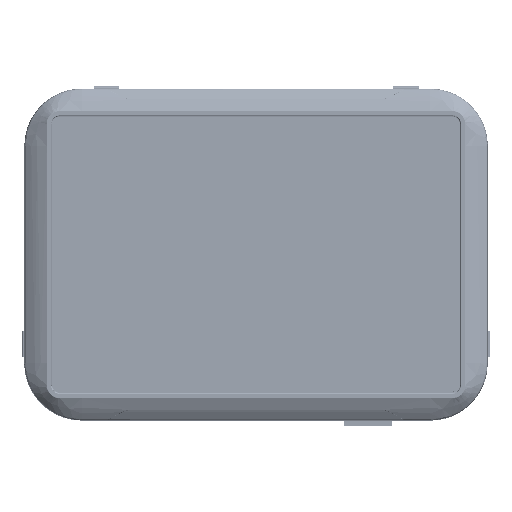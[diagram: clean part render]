
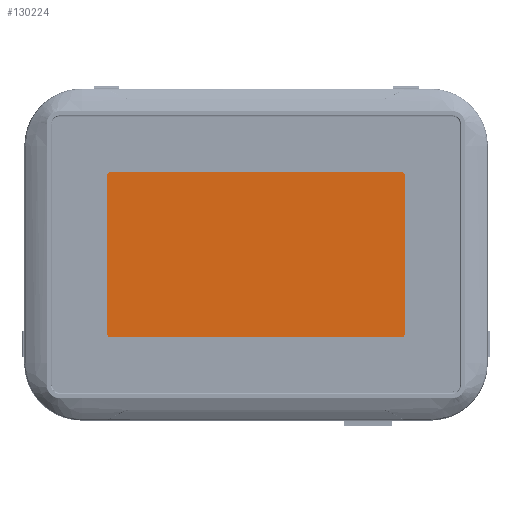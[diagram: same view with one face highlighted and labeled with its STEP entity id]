
A CAD part, top view. The second image highlights one B-rep face of the part: STEP entity #130224.
In plain terms, the highlighted planar face has unit normal (0, 0, 1).
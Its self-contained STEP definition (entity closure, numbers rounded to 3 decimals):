
#1723 = DIRECTION ( 'NONE',  ( -1., 0., 0. ) ) ;
#2961 = B_SPLINE_CURVE_WITH_KNOTS ( 'NONE', 3,
 ( #199640, #97426, #174773, #20949, #200762, #46853, #226615, #72725 ),
 .UNSPECIFIED., .F., .F.,
 ( 4, 2, 2, 4 ),
 ( 0., 0., 0.001, 0.002 ),
 .UNSPECIFIED. ) ;
#3267 = CARTESIAN_POINT ( 'NONE',  ( 46.525, 25.062, -0.2 ) ) ;
#6204 = CARTESIAN_POINT ( 'NONE',  ( 46.525, 24.93, -0.2 ) ) ;
#8180 = DIRECTION ( 'NONE',  ( 1., 0., 0. ) ) ;
#11655 = CARTESIAN_POINT ( 'NONE',  ( 45.657, -25.93, -0.2 ) ) ;
#19424 = VERTEX_POINT ( 'NONE', #78878 ) ;
#20949 = CARTESIAN_POINT ( 'NONE',  ( -46.029, 25.803, -0.2 ) ) ;
#21552 = CARTESIAN_POINT ( 'NONE',  ( -45.789, -25.93, -0.2 ) ) ;
#25445 = VERTEX_POINT ( 'NONE', #184289 ) ;
#33807 = LINE ( 'NONE', #146647, #299238 ) ;
#40861 = VECTOR ( 'NONE', #1723, 1000. ) ;
#46363 = CARTESIAN_POINT ( 'NONE',  ( -46.525, -24.93, -0.2 ) ) ;
#46853 = CARTESIAN_POINT ( 'NONE',  ( -46.416, 25.453, -0.2 ) ) ;
#58013 = DIRECTION ( 'NONE',  ( 0., -1., 0. ) ) ;
#63465 = CARTESIAN_POINT ( 'NONE',  ( 46.14, -25.729, -0.2 ) ) ;
#65794 = ORIENTED_EDGE ( 'NONE', *, *, #219955, .T. ) ;
#66437 = LINE ( 'NONE', #181428, #40861 ) ;
#66445 = VERTEX_POINT ( 'NONE', #300382 ) ;
#68056 = DIRECTION ( 'NONE',  ( 1., 0., 0. ) ) ;
#70750 = VERTEX_POINT ( 'NONE', #95763 ) ;
#72702 = EDGE_CURVE ( 'NONE', #114040, #228855, #198880, .T. ) ;
#72725 = CARTESIAN_POINT ( 'NONE',  ( -46.525, 24.93, -0.2 ) ) ;
#78686 = VERTEX_POINT ( 'NONE', #314118 ) ;
#78878 = CARTESIAN_POINT ( 'NONE',  ( -46.525, -24.93, -0.2 ) ) ;
#86748 = ORIENTED_EDGE ( 'NONE', *, *, #160207, .F. ) ;
#89280 = CARTESIAN_POINT ( 'NONE',  ( 46.525, -25.194, -0.2 ) ) ;
#95763 = CARTESIAN_POINT ( 'NONE',  ( -46.525, 24.93, -0.2 ) ) ;
#97426 = CARTESIAN_POINT ( 'NONE',  ( -45.657, 25.93, -0.2 ) ) ;
#98671 = LINE ( 'NONE', #317212, #287602 ) ;
#106739 = CARTESIAN_POINT ( 'NONE',  ( 46.398, 25.434, -0.2 ) ) ;
#109830 = EDGE_CURVE ( 'NONE', #224939, #228855, #305877, .T. ) ;
#114040 = VERTEX_POINT ( 'NONE', #151138 ) ;
#115411 = CARTESIAN_POINT ( 'NONE',  ( 46.525, -24.93, -0.2 ) ) ;
#130224 = ADVANCED_FACE ( 'NONE', ( #155584 ), #290327, .T. ) ;
#132566 = CARTESIAN_POINT ( 'NONE',  ( 46.048, 25.821, -0.2 ) ) ;
#136345 = CARTESIAN_POINT ( 'NONE',  ( 0., 0., -0.2 ) ) ;
#140191 = ORIENTED_EDGE ( 'NONE', *, *, #258609, .T. ) ;
#146647 = CARTESIAN_POINT ( 'NONE',  ( -45.525, 25.93, -0.2 ) ) ;
#149651 = CARTESIAN_POINT ( 'NONE',  ( -46.398, -25.434, -0.2 ) ) ;
#151138 = CARTESIAN_POINT ( 'NONE',  ( 46.525, 24.93, -0.2 ) ) ;
#155584 = FACE_OUTER_BOUND ( 'NONE', #287590, .T. ) ;
#156594 = ORIENTED_EDGE ( 'NONE', *, *, #194028, .F. ) ;
#158270 = CARTESIAN_POINT ( 'NONE',  ( 45.525, 25.93, -0.2 ) ) ;
#160207 = EDGE_CURVE ( 'NONE', #25445, #66445, #33807, .T. ) ;
#162058 = DIRECTION ( 'NONE',  ( 0., 0., 1. ) ) ;
#162793 = ORIENTED_EDGE ( 'NONE', *, *, #109830, .T. ) ;
#163093 = DIRECTION ( 'NONE',  ( 0., 1., 0. ) ) ;
#165530 = CARTESIAN_POINT ( 'NONE',  ( 45.787, -25.904, -0.2 ) ) ;
#174773 = CARTESIAN_POINT ( 'NONE',  ( -45.787, 25.904, -0.2 ) ) ;
#175373 = CARTESIAN_POINT ( 'NONE',  ( -46.048, -25.821, -0.2 ) ) ;
#181428 = CARTESIAN_POINT ( 'NONE',  ( 45.525, -25.93, -0.2 ) ) ;
#182995 = CARTESIAN_POINT ( 'NONE',  ( 46.525, 24.93, -0.2 ) ) ;
#184289 = CARTESIAN_POINT ( 'NONE',  ( -45.525, 25.93, -0.2 ) ) ;
#191407 = CARTESIAN_POINT ( 'NONE',  ( 45.525, -25.93, -0.2 ) ) ;
#193393 = ORIENTED_EDGE ( 'NONE', *, *, #237056, .T. ) ;
#194028 = EDGE_CURVE ( 'NONE', #224939, #78686, #66437, .T. ) ;
#198880 = LINE ( 'NONE', #6204, #207023 ) ;
#199640 = CARTESIAN_POINT ( 'NONE',  ( -45.525, 25.93, -0.2 ) ) ;
#200255 = CARTESIAN_POINT ( 'NONE',  ( -46.525, -25.062, -0.2 ) ) ;
#200762 = CARTESIAN_POINT ( 'NONE',  ( -46.14, 25.729, -0.2 ) ) ;
#201090 = CARTESIAN_POINT ( 'NONE',  ( 45.525, -25.93, -0.2 ) ) ;
#201381 = CARTESIAN_POINT ( 'NONE',  ( -45.525, -25.93, -0.2 ) ) ;
#203072 = AXIS2_PLACEMENT_3D ( 'NONE', #136345, #162058, #8180 ) ;
#207023 = VECTOR ( 'NONE', #58013, 1000. ) ;
#208218 = B_SPLINE_CURVE_WITH_KNOTS ( 'NONE', 3,
 ( #182995, #3267, #260668, #106739, #286462, #132566, #312349, #158270 ),
 .UNSPECIFIED., .F., .F.,
 ( 4, 2, 2, 4 ),
 ( 0., 0., 0.001, 0.002 ),
 .UNSPECIFIED. ) ;
#217405 = CARTESIAN_POINT ( 'NONE',  ( 46.029, -25.803, -0.2 ) ) ;
#219955 = EDGE_CURVE ( 'NONE', #25445, #70750, #2961, .T. ) ;
#221813 = B_SPLINE_CURVE_WITH_KNOTS ( 'NONE', 3,
 ( #46363, #200255, #303667, #149651, #329524, #175373, #21552, #201381 ),
 .UNSPECIFIED., .F., .F.,
 ( 4, 2, 2, 4 ),
 ( 0., 0., 0.001, 0.002 ),
 .UNSPECIFIED. ) ;
#224939 = VERTEX_POINT ( 'NONE', #201090 ) ;
#226615 = CARTESIAN_POINT ( 'NONE',  ( -46.525, 25.194, -0.2 ) ) ;
#228855 = VERTEX_POINT ( 'NONE', #115411 ) ;
#237056 = EDGE_CURVE ( 'NONE', #114040, #66445, #208218, .T. ) ;
#243234 = CARTESIAN_POINT ( 'NONE',  ( 46.416, -25.453, -0.2 ) ) ;
#258609 = EDGE_CURVE ( 'NONE', #19424, #78686, #221813, .T. ) ;
#260668 = CARTESIAN_POINT ( 'NONE',  ( 46.499, 25.192, -0.2 ) ) ;
#269037 = CARTESIAN_POINT ( 'NONE',  ( 46.525, -24.93, -0.2 ) ) ;
#286462 = CARTESIAN_POINT ( 'NONE',  ( 46.324, 25.545, -0.2 ) ) ;
#287590 = EDGE_LOOP ( 'NONE', ( #193393, #86748, #65794, #321041, #140191, #156594, #162793, #307298 ) ) ;
#287602 = VECTOR ( 'NONE', #163093, 1000. ) ;
#290327 = PLANE ( 'NONE',  #203072 ) ;
#299238 = VECTOR ( 'NONE', #68056, 1000. ) ;
#300382 = CARTESIAN_POINT ( 'NONE',  ( 45.525, 25.93, -0.2 ) ) ;
#303667 = CARTESIAN_POINT ( 'NONE',  ( -46.499, -25.192, -0.2 ) ) ;
#304831 = EDGE_CURVE ( 'NONE', #19424, #70750, #98671, .T. ) ;
#305877 = B_SPLINE_CURVE_WITH_KNOTS ( 'NONE', 3,
 ( #191407, #11655, #165530, #217405, #63465, #243234, #89280, #269037 ),
 .UNSPECIFIED., .F., .F.,
 ( 4, 2, 2, 4 ),
 ( 0., 0., 0.001, 0.002 ),
 .UNSPECIFIED. ) ;
#307298 = ORIENTED_EDGE ( 'NONE', *, *, #72702, .F. ) ;
#312349 = CARTESIAN_POINT ( 'NONE',  ( 45.789, 25.93, -0.2 ) ) ;
#314118 = CARTESIAN_POINT ( 'NONE',  ( -45.525, -25.93, -0.2 ) ) ;
#317212 = CARTESIAN_POINT ( 'NONE',  ( -46.525, -24.93, -0.2 ) ) ;
#321041 = ORIENTED_EDGE ( 'NONE', *, *, #304831, .F. ) ;
#329524 = CARTESIAN_POINT ( 'NONE',  ( -46.324, -25.545, -0.2 ) ) ;
